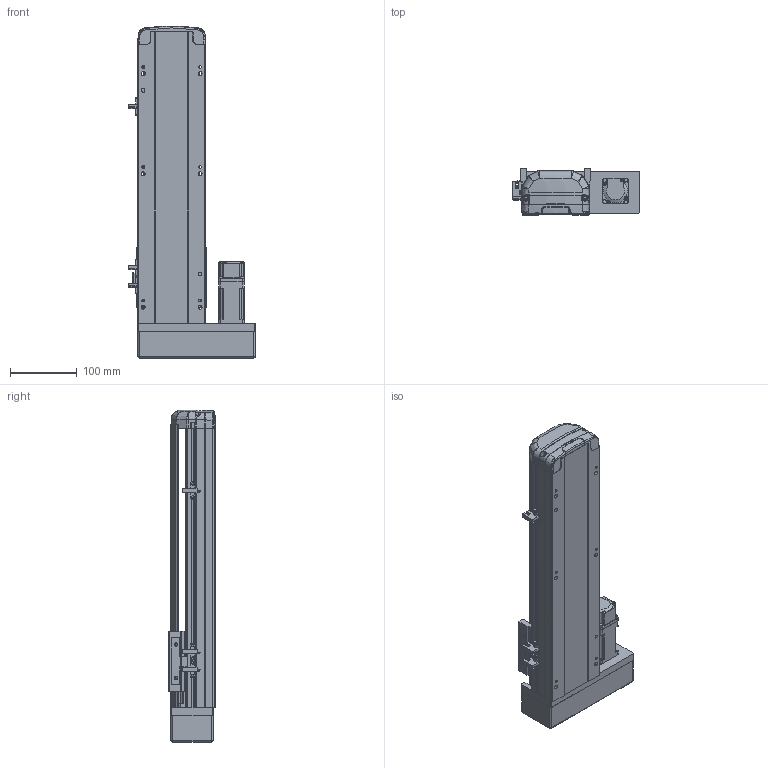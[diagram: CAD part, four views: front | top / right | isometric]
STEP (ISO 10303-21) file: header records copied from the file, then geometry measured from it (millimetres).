
FILE_DESCRIPTION (( 'STEP AP214' ), '1' );
FILE_NAME ('RTH10-XX-250-R-M10-C4.STEP', '2025-10-25T05:52:13', ( 'Microsoft' ), ( 'Microsoft' ), 'SwSTEP 2.0', 'SolidWorks 2018', '' );
FILE_SCHEMA (( 'AUTOMOTIVE_DESIGN' ));
Length unit declared in the file: millimetre
Products named in the file (10): RTH10-XX-250-R-M10-C4; N_RTH12-L-018-裔赽^RTH10-XX-100-R-M10-C4; N_RTH12-GY-001P^RTH10-XX-100-R-M10-C4; N_RTH12-L-008萇儂啣^RTH10-XX-100-R-M10-C4; N_OMRON EE-SX672 传感器^RTH10-XX-100-R-M10-C4; N_RTH12-M-011P-臏倰第菁釱^RTH10-XX-100-R-M10-C4; N_RTH12-M-007P-奻裔^RTH10-XX-100-R-M10-C4; N_P10^RTH10-XX-100-R-M10-C4; N_RTH13-L-012覜茼え俋离^RTH10-XX-100-R-M10-C4; N_RTH12-GY-004-賑釱^RTH10-XX-100-R-M10-C4
Assembly tree (11 placements, depth 2):
  RTH10-XX-250-R-M10-C4
    N_RTH12-M-011P-臏倰第菁釱^RTH10-XX-100-R-M10-C4
    N_RTH13-L-012覜茼え俋离^RTH10-XX-100-R-M10-C4
    N_OMRON EE-SX672 传感器^RTH10-XX-100-R-M10-C4  x3
    N_P10^RTH10-XX-100-R-M10-C4
    N_RTH12-M-007P-奻裔^RTH10-XX-100-R-M10-C4
    N_RTH12-L-008萇儂啣^RTH10-XX-100-R-M10-C4
    N_RTH12-L-018-裔赽^RTH10-XX-100-R-M10-C4
    N_RTH12-GY-004-賑釱^RTH10-XX-100-R-M10-C4
    N_RTH12-GY-001P^RTH10-XX-100-R-M10-C4
Bounding box: 190 x 70 x 497.31 mm (x, y, z)
Volume: 2463542 mm3; surface area: 394505.5 mm2
Topology: 10 solids, 12 shells, 1880 faces, 5224 edges, 3425 vertices
Faces by surface type: plane 939, bspline 472, cylinder 434, cone 29, sphere 4, torus 2
Entity records: 56104 total; most frequent: CARTESIAN_POINT 22649, ORIENTED_EDGE 7520, DIRECTION 5706, EDGE_CURVE 3766, VERTEX_POINT 2469, LINE 1990, VECTOR 1990, AXIS2_PLACEMENT_3D 1858
